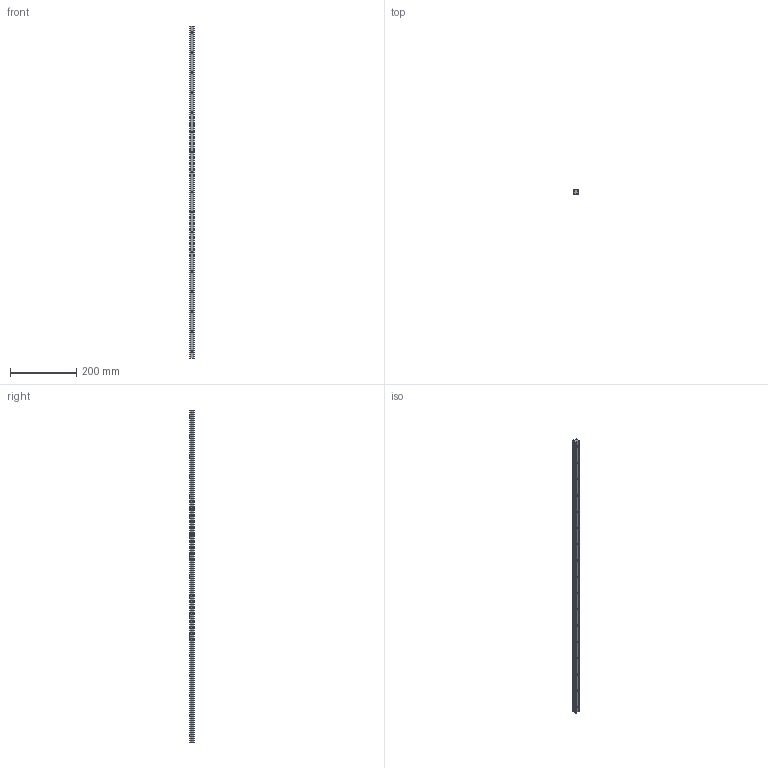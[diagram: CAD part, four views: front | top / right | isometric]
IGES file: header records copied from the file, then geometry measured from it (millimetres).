
Start section: SolidWorks IGES file using analytic representation for surfaces
Global section: file name: C:\Users\IanO\Desktop\L1016_v2\L1016.BL15_v2\L1016.BL15_v2_20190611_IGES\L1016.BL15-1000.igs; native system: SolidWorks 2017; preprocessor: SolidWorks 2017; author: IanO; date: 190612.122721; units: millimetre
Bounding box: 15 x 13 x 1000 mm (x, y, z)
Surface area: 61350 mm2 (no closed solid volume)
Topology: 0 solids, 0 shells, 111 faces, 2600 edges, 2600 vertices
Faces by surface type: revolution 72, bspline 39
